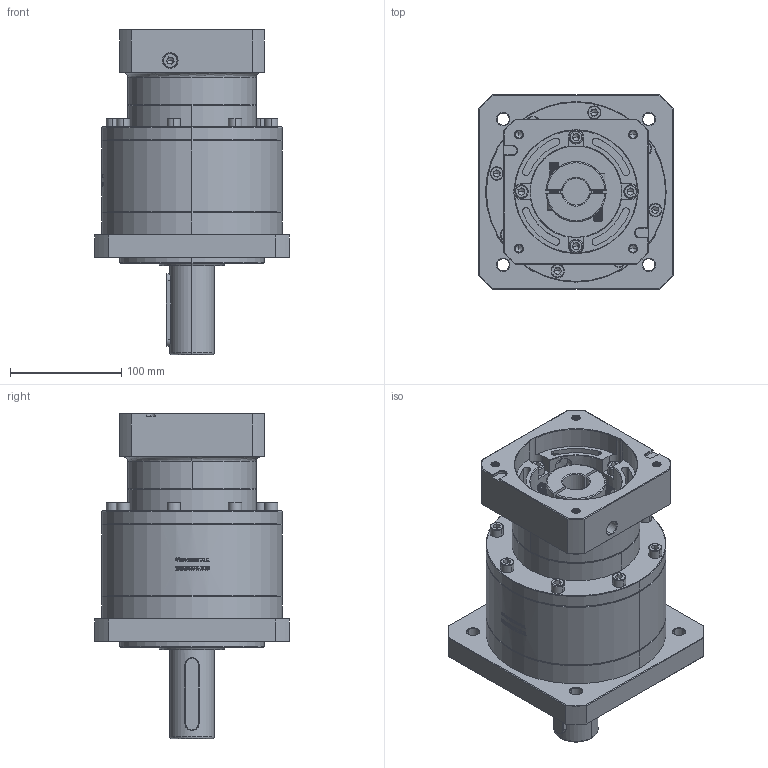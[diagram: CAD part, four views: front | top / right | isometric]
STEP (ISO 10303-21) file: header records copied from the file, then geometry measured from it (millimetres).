
FILE_DESCRIPTION (( 'STEP AP214' ), '1' );
FILE_NAME ('ZF160-D40-L2-24-110-145-M8.step', '2023-03-22T03:56:38', ( '' ), ( '' ), 'SwSTEP 2.0', 'SolidWorks 2016', '' );
FILE_SCHEMA (( 'AUTOMOTIVE_DESIGN' ));
Length unit declared in the file: millimetre
Products named in the file (1): ZF160-D40-L2-24-110-145-M8
Bounding box: 175 x 175 x 292.2 mm (x, y, z)
Volume: 3584378 mm3; surface area: 281968.9 mm2
Topology: 6 solids, 6 shells, 1916 faces, 4877 edges, 3081 vertices
Faces by surface type: plane 772, cylinder 511, cone 361, bspline 214, torus 58
Entity records: 102783 total; most frequent: CARTESIAN_POINT 37757, ORIENTED_EDGE 9646, DIRECTION 8465, EDGE_CURVE 4823, VERTEX_POINT 3081, AXIS2_PLACEMENT_3D 2944, VECTOR 2577, LINE 2577
